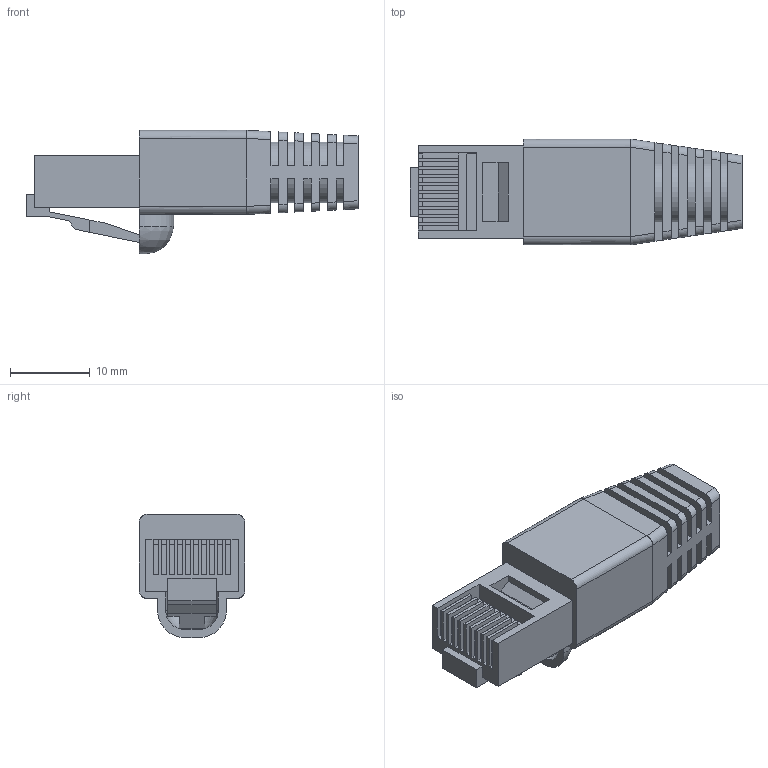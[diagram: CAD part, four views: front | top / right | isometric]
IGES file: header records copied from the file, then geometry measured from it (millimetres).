
Start section:  PTC IGES file: cu_rj50_cable_backshell.igs
Global section: file name: cu_rj50_cable_backshell.igs; native system: Pro/ENGINEER by Parametric Technology Corporation; preprocessor: 2006080; author: jpearson; organization: Unknown; date: 070625.112111; units: inch
Bounding box: 41.63 x 13.26 x 15.45 mm (x, y, z)
Surface area: 2939 mm2 (no closed solid volume)
Topology: 0 solids, 0 shells, 198 faces, 1162 edges, 1162 vertices
Faces by surface type: bspline 154, revolution 44
